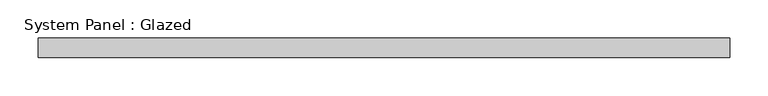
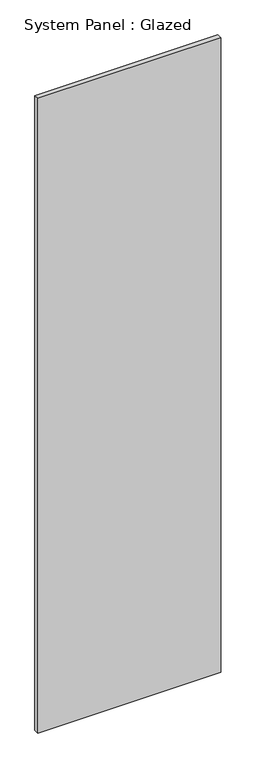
"""IFC4 building model written with IfcOpenShell, lengths in millimetres: plate geometry, System Panel : Glazed."""

from ifc_helpers import new_model, si_unit, origin, origin_with_axes, place, context, project, spatial, polyline, outline, extrude, source, transform, mapped, element, save


def system_panel_glazed_b1d20705(model_context):
    return source(origin(), model_context, "Body", "SweptSolid", [
        extrude(outline(polyline([(450.0, 24.5), (-450.0, 24.5), (-450.0, 49.5), (450.0, 49.5), (450.0, 24.5)])), origin_with_axes(), (0.0, 0.0, 1.0), 3300.0),
    ])


if __name__ == "__main__":
    model = new_model("IFC4")
    model_context = context("Model", 3, world=origin())
    ifc_project = project(units=[si_unit("LENGTHUNIT", "METRE", prefix="MILLI")], contexts=[model_context])
    site = spatial("IfcSite", under=ifc_project)
    building = spatial("IfcBuilding", under=site)
    placement = place(None, origin())
    system_panel_glazed_shape = system_panel_glazed_b1d20705(model_context)
    element("IfcPlate", 1, ObjectType="System Panel : Glazed", at=placement, inside=building, context=model_context, shape_type="MappedRepresentation", body=[
        mapped(system_panel_glazed_shape, transform((0.0, 0.0, 0.0), x_axis=(1.0, 0.0, 0.0), y_axis=(0.0, 1.0, 0.0), z_axis=(0.0, 0.0, 1.0))),
    ])
    save(model, "model.ifc")
